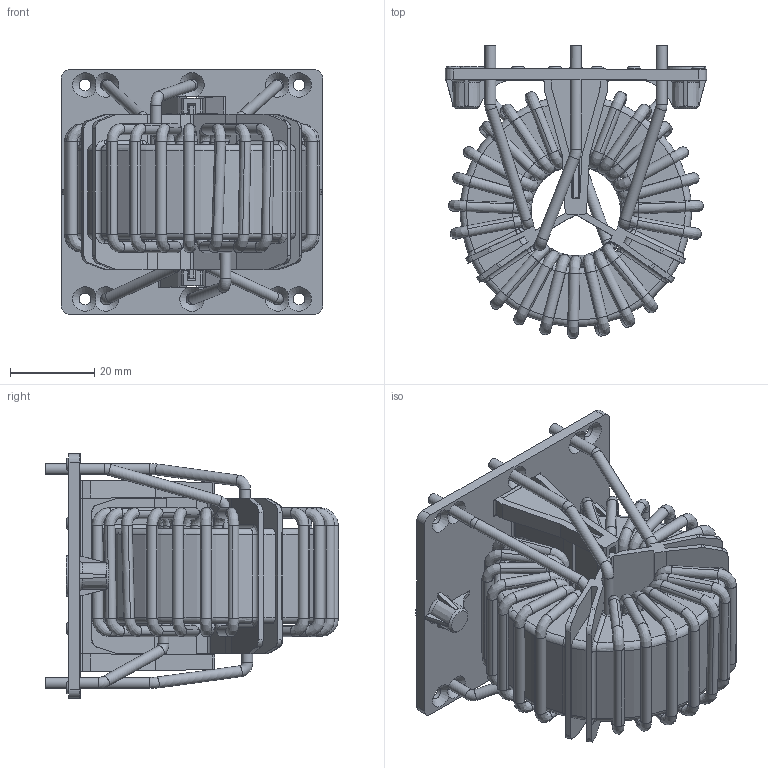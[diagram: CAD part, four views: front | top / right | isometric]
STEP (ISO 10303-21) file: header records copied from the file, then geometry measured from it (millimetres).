
FILE_DESCRIPTION((''),'2;1');
FILE_NAME('K:\Development\Projects\RB\Angel_standard choke series 2011\70_Realization_Revision\702_MechanicalDesign\RB8532-25-0M9 for customer_包覆面提取_1.stp','2013-03-13T15:45:49',('Bin.Fan'),(''),'Autodesk Inventor 2010','Autodesk Inventor 2010','');
FILE_SCHEMA(('AUTOMOTIVE_DESIGN { 1 0 10303 214 1 1 1 1 }'));
Length unit declared in the file: millimetre
Products named in the file (1): RB8532-25-0M9  for customer_包覆面提取_1
Bounding box: 62 x 69.58 x 58 mm (x, y, z)
Volume: 65117 mm3; surface area: 43650 mm2
Topology: 1 solids, 2 shells, 983 faces, 2818 edges, 1838 vertices
Faces by surface type: plane 389, bspline 320, cylinder 162, torus 72, cone 40
Full cylindrical faces by diameter (mm): 2.6 x14, 2.8 x10, 3 x11, 9.6 x2
Entity records: 38571 total; most frequent: CARTESIAN_POINT 13139, ORIENTED_EDGE 5394, DIRECTION 4876, EDGE_CURVE 2697, AXIS2_PLACEMENT_3D 1823, VERTEX_POINT 1799, VECTOR 1230, LINE 1230
